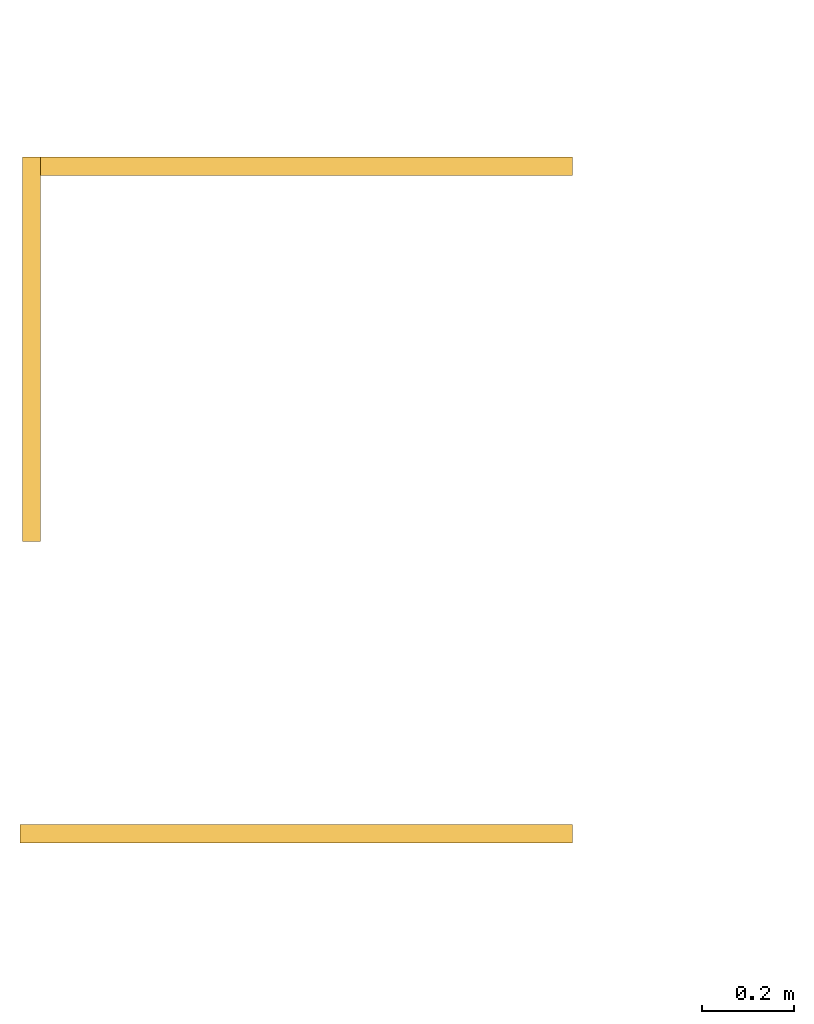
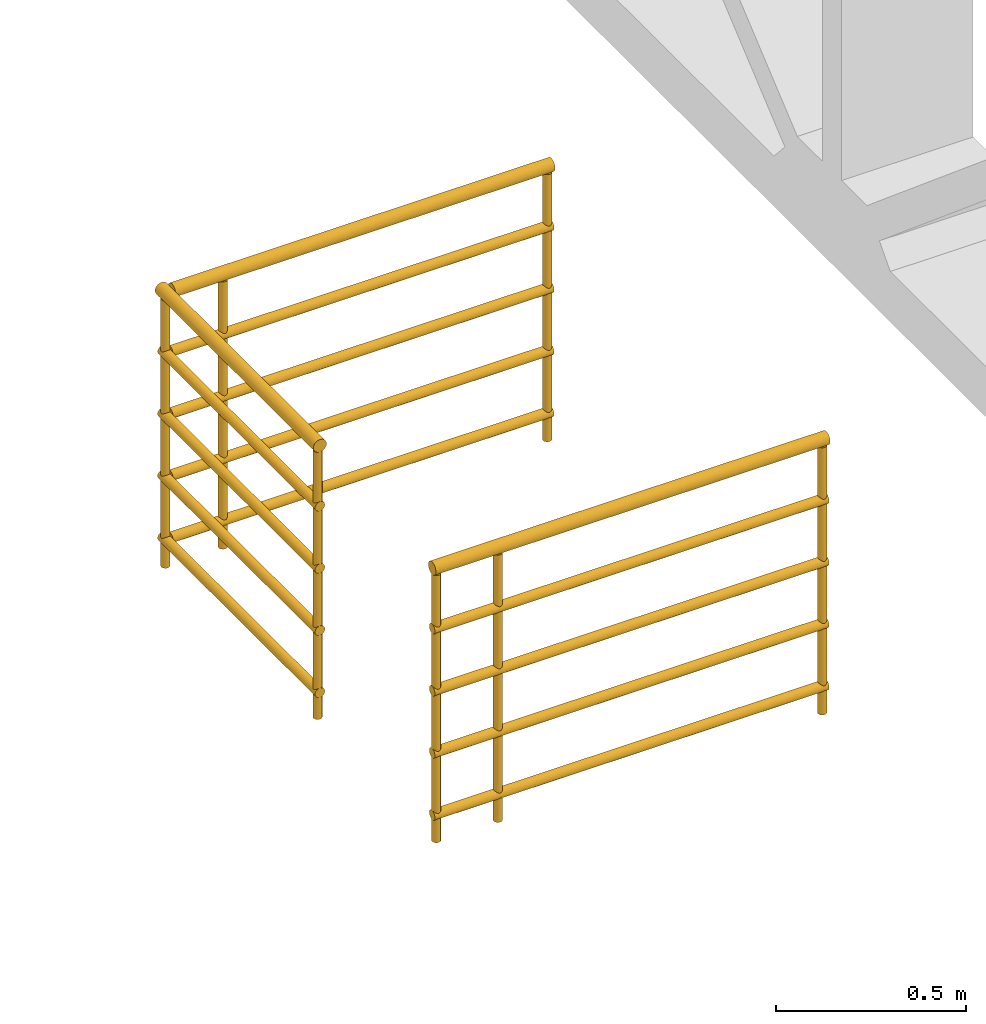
# One storey, part 1 of 3: 2 railings.
"""IFC2X3 building model written with IfcOpenShell, lengths in millimetres."""

from ifc_helpers import new_model, entity, si_unit, converted_unit, derived_unit, direction, frame, origin, origin_2d_with_axis, place, context, subcontext, project, spatial, circle, extrude, element, save


model = new_model("IFC2X3")

# Units and contexts
model_context = context("Model", 3, precision=0.01, world=origin(), true_north=direction((6.12303176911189e-17, 1.0)))
body_context = subcontext(model_context, "Body", "Model", "MODEL_VIEW")
ifc_project = project(units=[si_unit("LENGTHUNIT", "METRE", prefix="MILLI"), si_unit("AREAUNIT", "SQUARE_METRE"), si_unit("VOLUMEUNIT", "CUBIC_METRE"), converted_unit("PLANEANGLEUNIT", "DEGREE", entity("IfcRatioMeasure", 0.0174532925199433), si_unit("PLANEANGLEUNIT", "RADIAN"), dimensions=[0, 0, 0, 0, 0, 0, 0]), si_unit("MASSUNIT", "GRAM", prefix="KILO"), derived_unit("MASSDENSITYUNIT", [(si_unit("MASSUNIT", "GRAM", prefix="KILO"), 1), (si_unit("LENGTHUNIT", "METRE"), -3)]), si_unit("TIMEUNIT", "SECOND"), si_unit("FREQUENCYUNIT", "HERTZ"), si_unit("THERMODYNAMICTEMPERATUREUNIT", "DEGREE_CELSIUS"), derived_unit("THERMALTRANSMITTANCEUNIT", [(si_unit("MASSUNIT", "GRAM", prefix="KILO"), 1), (si_unit("THERMODYNAMICTEMPERATUREUNIT", "KELVIN"), -1), (si_unit("TIMEUNIT", "SECOND"), -3)]), derived_unit("VOLUMETRICFLOWRATEUNIT", [(si_unit("LENGTHUNIT", "METRE"), 3), (si_unit("TIMEUNIT", "SECOND"), -1)]), si_unit("ELECTRICCURRENTUNIT", "AMPERE"), si_unit("ELECTRICVOLTAGEUNIT", "VOLT"), si_unit("POWERUNIT", "WATT"), si_unit("FORCEUNIT", "NEWTON", prefix="KILO"), si_unit("ILLUMINANCEUNIT", "LUX"), si_unit("LUMINOUSFLUXUNIT", "LUMEN"), si_unit("LUMINOUSINTENSITYUNIT", "CANDELA"), derived_unit("USERDEFINED", [(si_unit("MASSUNIT", "GRAM", prefix="KILO"), -1), (si_unit("LENGTHUNIT", "METRE"), -2), (si_unit("TIMEUNIT", "SECOND"), 3), (si_unit("LUMINOUSFLUXUNIT", "LUMEN"), 1)]), derived_unit("LINEARVELOCITYUNIT", [(si_unit("LENGTHUNIT", "METRE"), 1), (si_unit("TIMEUNIT", "SECOND"), -1)]), si_unit("PRESSUREUNIT", "PASCAL"), derived_unit("USERDEFINED", [(si_unit("LENGTHUNIT", "METRE"), -2), (si_unit("MASSUNIT", "GRAM", prefix="KILO"), 1), (si_unit("TIMEUNIT", "SECOND"), -2)])], contexts=[model_context])

# Site, building, storey
site_placement = place(None, origin())
site = spatial("IfcSite", under=ifc_project, at=site_placement, Name="表面", CompositionType="ELEMENT")
building_placement = place(site_placement, origin())
building = spatial("IfcBuilding", under=site, at=building_placement, CompositionType="ELEMENT")
storey_placement = place(building_placement, frame((0.0, 0.0, 8500.0)))
storey = spatial("IfcBuildingStorey", under=building, at=storey_placement, Name="8.500(标顶)", CompositionType="ELEMENT", Elevation=8500.0)

# Railings
railing_1_placement = place(storey_placement, origin())
element("IfcRailing", 1, at=railing_1_placement, inside=storey, Name="栏杆扶手:900mm 圆管", ObjectType="栏杆扶手:900mm 圆管", PredefinedType="NOTDEFINED", context=body_context, shape_type="SweptSolid", body=[
    extrude(circle(Radius=12.5, at=origin_2d_with_axis()), frame((-33268.798781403, 8482.08428378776, -500.0), z_axis=(0.0, 0.0, 1.0), x_axis=(0.0, 1.0, 0.0)), (0.0, 0.0, 1.0), 859.999999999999),
    extrude(circle(Radius=12.5, at=origin_2d_with_axis()), frame((-33443.798781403, 8482.08428378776, -500.0), z_axis=(0.0, 0.0, 1.0), x_axis=(0.0, 1.0, 0.0)), (0.0, 0.0, 1.0), 859.999999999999),
    extrude(circle(Radius=12.5, at=origin_2d_with_axis()), frame((-33443.798781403, 7679.58428378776, -500.0), z_axis=(0.0, 0.0, 1.0), x_axis=(-1.0, 0.0, 0.0)), (0.0, 0.0, 1.0), 859.999999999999),
    extrude(circle(Radius=12.5, at=origin_2d_with_axis()), frame((-32281.298781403, 8482.08428378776, -500.0), z_axis=(0.0, 0.0, 1.0), x_axis=(0.0, 1.0, 0.0)), (0.0, 0.0, 1.0), 859.999999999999),
    extrude(circle(Radius=20.0, at=origin_2d_with_axis()), frame((-33423.798781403, 8482.08428378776, 380.0), z_axis=(1.0, 0.0, 0.0), x_axis=(0.0, -1.0, 0.0)), (0.0, 0.0, 1.0), 1154.99999999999),
    extrude(circle(Radius=20.0, at=origin_2d_with_axis()), frame((-33443.798781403, 7667.08428378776, 380.0), z_axis=(0.0, 1.0, 0.0), x_axis=(1.0, 0.0, 0.0)), (0.0, 0.0, 1.0), 835.000000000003),
    extrude(circle(Radius=15.0, at=origin_2d_with_axis()), frame((-33428.798781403, 8482.08428378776, 185.0), z_axis=(1.0, 0.0, 0.0), x_axis=(0.0, -1.0, 0.0)), (0.0, 0.0, 1.0), 1159.99999999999),
    extrude(circle(Radius=15.0, at=origin_2d_with_axis()), frame((-33443.798781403, 7667.08428378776, 185.0), z_axis=(0.0, 1.0, 0.0), x_axis=(1.0, 0.0, 0.0)), (0.0, 0.0, 1.0), 830.000000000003),
    extrude(circle(Radius=15.0, at=origin_2d_with_axis()), frame((-33428.798781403, 8482.08428378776, -15.0), z_axis=(1.0, 0.0, 0.0), x_axis=(0.0, -1.0, 0.0)), (0.0, 0.0, 1.0), 1159.99999999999),
    extrude(circle(Radius=15.0, at=origin_2d_with_axis()), frame((-33443.798781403, 7667.08428378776, -15.0), z_axis=(0.0, 1.0, 0.0), x_axis=(1.0, 0.0, 0.0)), (0.0, 0.0, 1.0), 830.000000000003),
    extrude(circle(Radius=15.0, at=origin_2d_with_axis()), frame((-33428.798781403, 8482.08428378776, -215.0), z_axis=(1.0, 0.0, 0.0), x_axis=(0.0, -1.0, 0.0)), (0.0, 0.0, 1.0), 1159.99999999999),
    extrude(circle(Radius=15.0, at=origin_2d_with_axis()), frame((-33443.798781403, 7667.08428378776, -215.0), z_axis=(0.0, 1.0, 0.0), x_axis=(1.0, 0.0, 0.0)), (0.0, 0.0, 1.0), 830.000000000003),
    extrude(circle(Radius=15.0, at=origin_2d_with_axis()), frame((-33428.798781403, 8482.08428378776, -415.0), z_axis=(1.0, 0.0, 0.0), x_axis=(0.0, -1.0, 0.0)), (0.0, 0.0, 1.0), 1159.99999999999),
    extrude(circle(Radius=15.0, at=origin_2d_with_axis()), frame((-33443.798781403, 7667.08428378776, -415.0), z_axis=(0.0, 1.0, 0.0), x_axis=(1.0, 0.0, 0.0)), (0.0, 0.0, 1.0), 830.000000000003),
])
railing_2_placement = place(storey_placement, origin())
element("IfcRailing", 2, at=railing_2_placement, inside=storey, Name="栏杆扶手:900mm 圆管", ObjectType="栏杆扶手:900mm 圆管", PredefinedType="NOTDEFINED", context=body_context, shape_type="SweptSolid", body=[
    extrude(circle(Radius=12.5, at=origin_2d_with_axis()), frame((-33268.798781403, 7032.08428378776, -500.0), z_axis=(0.0, 0.0, 1.0), x_axis=(0.0, -1.0, 0.0)), (0.0, 0.0, 1.0), 859.999999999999),
    extrude(circle(Radius=12.5, at=origin_2d_with_axis()), frame((-33456.298781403, 7032.08428378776, -500.0), z_axis=(0.0, 0.0, 1.0), x_axis=(0.0, -1.0, 0.0)), (0.0, 0.0, 1.0), 859.999999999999),
    extrude(circle(Radius=12.5, at=origin_2d_with_axis()), frame((-32281.298781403, 7032.08428378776, -500.0), z_axis=(0.0, 0.0, 1.0), x_axis=(0.0, -1.0, 0.0)), (0.0, 0.0, 1.0), 859.999999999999),
    extrude(circle(Radius=20.0, at=origin_2d_with_axis()), frame((-33468.798781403, 7032.08428378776, 380.0), z_axis=(1.0, 0.0, 0.0), x_axis=(0.0, 1.0, 0.0)), (0.0, 0.0, 1.0), 1200.0),
    extrude(circle(Radius=15.0, at=origin_2d_with_axis()), frame((-33468.798781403, 7032.08428378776, 185.0), z_axis=(1.0, 0.0, 0.0), x_axis=(0.0, 1.0, 0.0)), (0.0, 0.0, 1.0), 1200.0),
    extrude(circle(Radius=15.0, at=origin_2d_with_axis()), frame((-33468.798781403, 7032.08428378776, -15.0), z_axis=(1.0, 0.0, 0.0), x_axis=(0.0, 1.0, 0.0)), (0.0, 0.0, 1.0), 1200.0),
    extrude(circle(Radius=15.0, at=origin_2d_with_axis()), frame((-33468.798781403, 7032.08428378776, -215.0), z_axis=(1.0, 0.0, 0.0), x_axis=(0.0, 1.0, 0.0)), (0.0, 0.0, 1.0), 1200.0),
    extrude(circle(Radius=15.0, at=origin_2d_with_axis()), frame((-33468.798781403, 7032.08428378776, -415.0), z_axis=(1.0, 0.0, 0.0), x_axis=(0.0, 1.0, 0.0)), (0.0, 0.0, 1.0), 1200.0),
])

save(model, "model.ifc")
